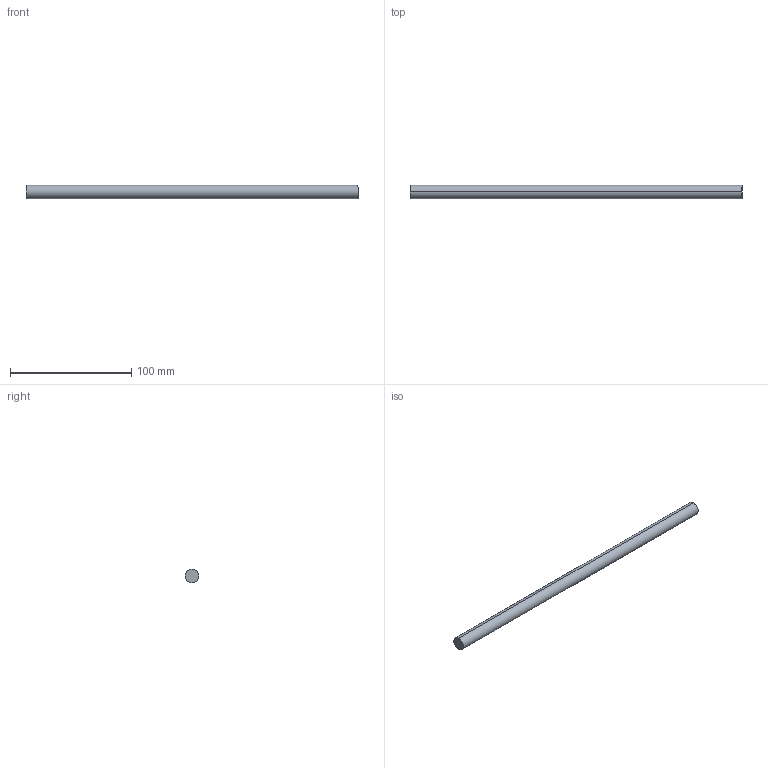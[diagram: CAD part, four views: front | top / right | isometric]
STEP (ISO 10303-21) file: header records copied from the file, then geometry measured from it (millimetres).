
FILE_DESCRIPTION (( 'STEP AP214' ), '1' );
FILE_NAME ('Querreling_2S-Rel_7102_25mm-Halter_KAB-400.step', '2010-09-22T15:06:02', ( 'grass' ), ( '' ), 'SwSTEP 2.0', 'SolidWorks 2010', '' );
FILE_SCHEMA (( 'AUTOMOTIVE_DESIGN' ));
Length unit declared in the file: millimetre
Products named in the file (1): Querreling_2S-Rel_7102_25mm-Halter_KAB-400
Bounding box: 274 x 11 x 11 mm (x, y, z)
Volume: 26039.1 mm3; surface area: 9658.8 mm2
Topology: 1 solids, 1 shells, 4 faces, 6 edges, 4 vertices
Faces by surface type: cylinder 2, plane 2
Entity records: 128 total; most frequent: DIRECTION 20, CARTESIAN_POINT 15, ORIENTED_EDGE 12, AXIS2_PLACEMENT_3D 9, EDGE_CURVE 6, EDGE_LOOP 4, FACE_OUTER_BOUND 4, CIRCLE 4
